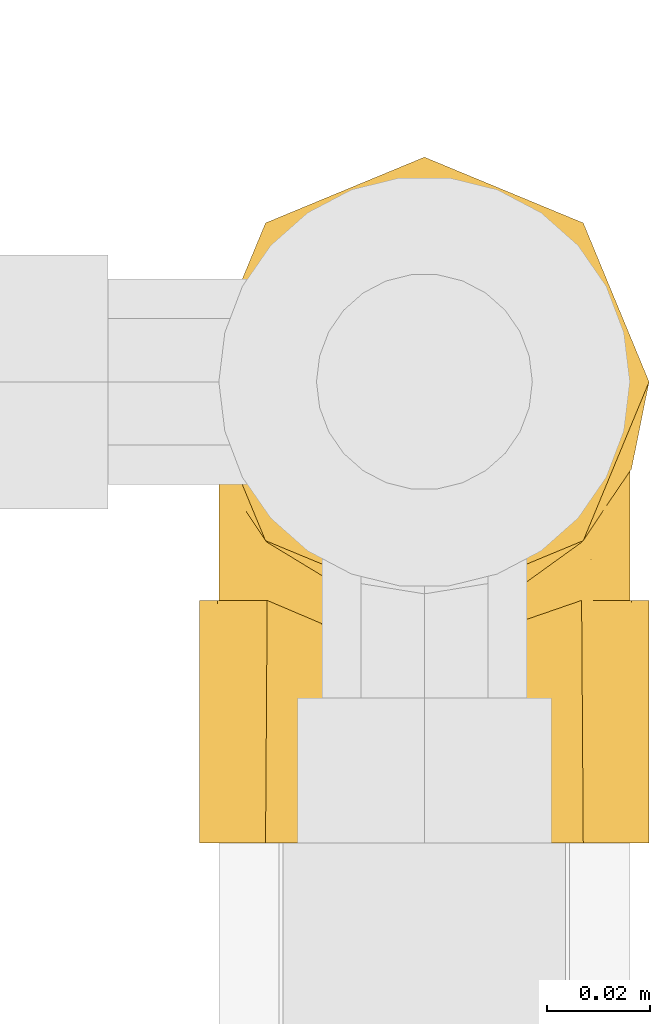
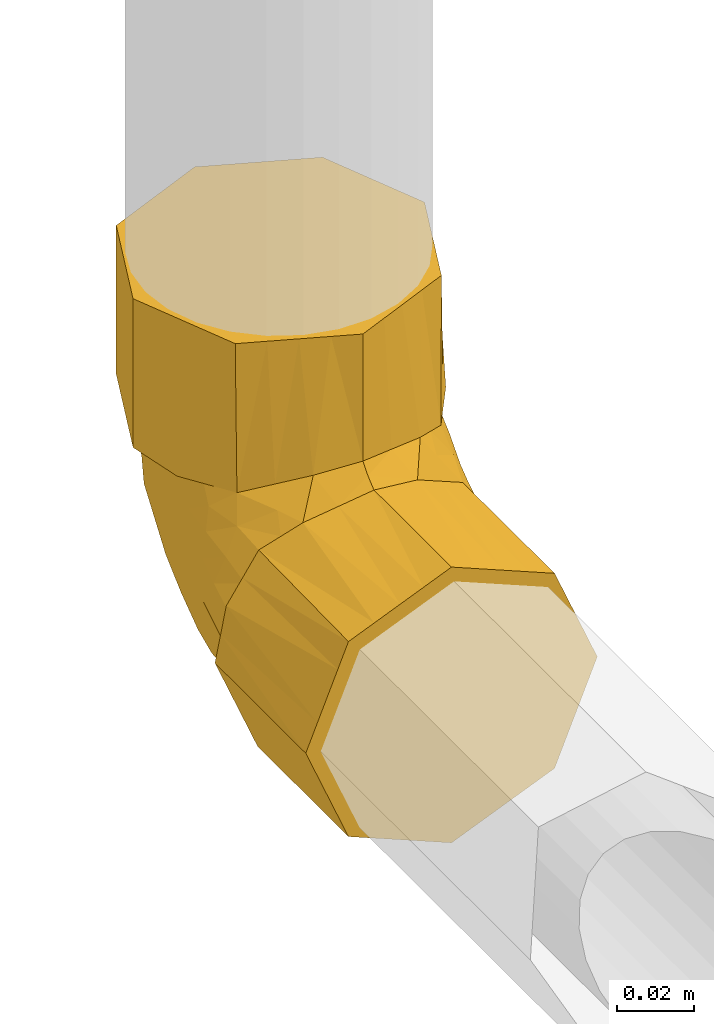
# One storey, part 281 of 652: 1 covering.
"""IFC2X3 building model written with IfcOpenShell, lengths in millimetres."""

from ifc_helpers import new_model, entity, si_unit, converted_unit, direction, frame, origin, place, context, subcontext, project, spatial, faceted_brep, material, type_object, element, save


model = new_model("IFC2X3")

# Units and contexts
model_context = context("Model", 3, precision=0.01, world=frame((0.0, 0.0, 308426.39999999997)), true_north=direction((6.123233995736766e-17, 1.0)))
plan_context = context("Plan", 3, precision=0.01, world=frame((0.0, 0.0, 308426.39999999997)), true_north=direction((6.123233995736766e-17, 1.0)))
body_context = subcontext(model_context, "Body", "Model", "MODEL_VIEW")
ifc_project = project(units=[si_unit("LENGTHUNIT", "METRE", prefix="MILLI"), si_unit("AREAUNIT", "SQUARE_METRE"), si_unit("VOLUMEUNIT", "CUBIC_METRE"), converted_unit("PLANEANGLEUNIT", "DEGREE", entity("IfcPlaneAngleMeasure", 0.017453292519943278), si_unit("PLANEANGLEUNIT", "RADIAN"), dimensions=[0, 0, 0, 0, 0, 0, 0])], contexts=[model_context, plan_context])

# Site, building, storey
site_placement = place(None, origin())
site = spatial("IfcSite", under=ifc_project, at=site_placement, Name="Default", CompositionType="ELEMENT")
building_placement = place(site_placement, origin())
building = spatial("IfcBuilding", under=site, at=building_placement, CompositionType="ELEMENT")
storey_placement = place(building_placement, frame((0.0, 0.0, 1730.6999999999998)))
storey = spatial("IfcBuildingStorey", under=building, at=storey_placement, Name="EG_Produktion_FFB", CompositionType="ELEMENT", Elevation=1730.6999999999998)

# Covering
ifc_material = material(Name="Dämmung - Armaflex-Schlauch")
covering_type = type_object("IfcCoveringType", Name="Rohrdämmung außen:Armaflex-Schlauch", PredefinedType="INSULATION")
covering_placement = place(storey_placement, frame((79576.77747546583, 84759.14066098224, 4954.684727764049)))
element("IfcCovering", 1, at=covering_placement, inside=storey, type_object=covering_type, material=ifc_material, Name="Rohrdämmung außen:Armaflex-Schlauch", ObjectType="Rohrdämmung außen:Armaflex-Schlauch", PredefinedType="INSULATION", context=body_context, shape_type="Brep", body=[
    faceted_brep([(89.03527223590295, 89.7200000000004, 87.85527223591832), (87.32560259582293, 81.24510847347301, 87.85527223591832), (85.61593295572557, 72.7702169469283, 87.85527223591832), (80.76173096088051, 65.62819273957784, 87.85527223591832), (75.90752896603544, 58.48616853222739, 87.85527223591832), (80.04887855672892, 67.59976223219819, 87.8552722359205), (84.19022814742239, 76.71335593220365, 87.85527223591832), (85.31527223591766, 86.71350835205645, 87.85527223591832), (81.77473258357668, 94.40209709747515, 87.8552722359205), (78.23419293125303, 102.09068584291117, 87.85527223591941), (74.38937834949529, 110.44003397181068, 87.85527223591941), (70.54456376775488, 118.78938210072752, 87.85527223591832), (57.929918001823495, 123.35795944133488, 87.85527223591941), (45.315272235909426, 127.92653678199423, 87.85527223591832), (37.43329692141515, 123.99884456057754, 87.85527223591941), (29.551321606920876, 120.07115233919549, 87.85527223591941), (21.669346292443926, 116.14346011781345, 87.85527223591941), (13.78737097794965, 112.21576789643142, 87.85527223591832), (10.718682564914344, 102.97856578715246, 87.85527223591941), (8.016977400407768, 94.8460370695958, 87.8552722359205), (5.315272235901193, 86.71350835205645, 87.85527223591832), (6.153990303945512, 82.95558245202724, 87.85527223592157), (6.992708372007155, 79.19765655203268, 87.85527223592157), (8.33413587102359, 73.18731131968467, 87.85527223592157), (9.675563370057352, 67.17696608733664, 87.85527223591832), (14.723015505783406, 58.48616853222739, 87.85527223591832), (9.868813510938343, 65.62819273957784, 87.85527223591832), (5.014611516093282, 72.7702169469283, 87.85527223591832), (3.304941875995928, 81.24510847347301, 87.85527223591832), (1.5952722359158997, 89.7200000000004, 87.85527223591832), (5.076533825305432, 98.12450894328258, 87.85527223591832), (7.997917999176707, 105.17735423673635, 87.85527223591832), (11.19924088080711, 112.90603135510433, 87.85527223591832), (14.400563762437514, 120.63470847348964, 87.85527223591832), (22.129240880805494, 123.8360313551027, 87.85527223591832), (29.85791799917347, 127.03735423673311, 87.85527223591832), (36.91076458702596, 129.95873894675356, 87.85527223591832), (45.315272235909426, 133.44000000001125, 87.85527223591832), (53.71978107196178, 129.9587384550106, 87.85527223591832), (60.772626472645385, 127.03735423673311, 87.85527223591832), (68.50130359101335, 123.8360313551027, 87.85527223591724), (76.22998070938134, 120.63470847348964, 87.85527223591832), (79.43130359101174, 112.90603135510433, 87.85527223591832), (82.63262647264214, 105.17735423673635, 87.85527223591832), (85.5540112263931, 98.12450754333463, 87.85527223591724), (14.400563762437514, 58.805291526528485, 135.0352722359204), (22.129240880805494, 55.60396864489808, 135.0352722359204), (29.85791799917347, 52.40264576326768, 135.0352722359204), (37.58659511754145, 49.201322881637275, 135.0352722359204), (45.315272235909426, 46.0, 135.0352722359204), (53.719779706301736, 49.481260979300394, 135.0352722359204), (60.772626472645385, 52.40264576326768, 135.0352722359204), (68.50130359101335, 55.60396864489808, 135.0352722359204), (76.22998070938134, 58.805291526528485, 135.0352722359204), (79.43130359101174, 66.53396864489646, 135.0352722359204), (82.63262647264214, 74.26264576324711, 135.0352722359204), (85.83394935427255, 81.99132288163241, 135.0352722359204), (89.03527223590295, 89.7200000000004, 135.0352722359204), (85.83394935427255, 97.44867711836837, 135.0352722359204), (82.63262647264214, 105.17735423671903, 135.0352722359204), (79.43130359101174, 112.90603135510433, 135.0352722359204), (76.22998070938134, 120.63470847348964, 135.0352722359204), (68.50130359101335, 123.8360313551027, 135.0352722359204), (60.772626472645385, 127.03735423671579, 135.0352722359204), (53.0439493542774, 130.2386771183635, 135.0352722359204), (45.315272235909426, 133.44000000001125, 135.0352722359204), (37.58659511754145, 130.2386771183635, 135.0352722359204), (29.85791799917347, 127.03735423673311, 135.0352722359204), (22.129240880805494, 123.8360313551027, 135.0352722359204), (14.400563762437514, 120.63470847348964, 135.0352722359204), (11.479179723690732, 113.58186350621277, 135.0352722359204), (8.557795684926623, 106.52901853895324, 135.0352722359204), (5.076533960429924, 98.12450926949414, 135.0352722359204), (1.5952722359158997, 89.7200000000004, 135.0352722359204), (5.076533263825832, 81.31549241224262, 135.0352722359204), (7.997917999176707, 74.26264576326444, 135.0352722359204), (11.19924088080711, 66.53396864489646, 135.0352722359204), (45.315272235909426, 46.0, 94.75489207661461), (31.66279583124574, 48.1862993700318, 93.70357391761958), (23.19290566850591, 53.33623395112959, 90.77942307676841), (55.29456727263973, 48.410751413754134, 93.56571370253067), (65.27386230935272, 50.821502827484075, 92.37653532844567), (70.59069563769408, 54.6538356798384, 90.11590378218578), (89.03527223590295, 47.17999999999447, 45.31527223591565), (85.554010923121, 47.17999999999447, 36.91076396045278), (82.63262647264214, 47.17999999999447, 29.857917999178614), (79.43130359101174, 47.17999999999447, 22.129240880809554), (76.22998070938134, 47.17999999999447, 14.40056376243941), (68.50130359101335, 47.17999999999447, 11.199240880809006), (60.772626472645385, 47.17999999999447, 7.997917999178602), (53.71977974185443, 47.17999999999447, 5.076533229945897), (45.315272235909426, 47.17999999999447, 1.595272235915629), (36.91076358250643, 47.17999999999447, 5.076533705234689), (29.85791799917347, 47.17999999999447, 7.9979179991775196), (22.129240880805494, 47.17999999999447, 11.199240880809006), (14.400563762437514, 47.17999999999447, 14.40056376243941), (11.19924088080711, 47.17999999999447, 22.12924088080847), (7.997917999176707, 47.17999999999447, 29.85791799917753), (5.076533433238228, 47.17999999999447, 36.91076423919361), (1.5952722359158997, 47.17999999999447, 45.31527223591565), (3.3049417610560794, 47.17999999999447, 53.79016348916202), (5.014611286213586, 47.17999999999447, 62.26505474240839), (9.868813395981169, 47.17999999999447, 69.40707922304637), (14.72301550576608, 47.17999999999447, 76.54910370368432), (10.581665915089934, 47.17999999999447, 67.4355100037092), (6.440316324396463, 47.17999999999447, 58.32191630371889), (5.315272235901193, 47.17999999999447, 48.32176388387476), (8.85581183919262, 47.17999999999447, 40.63317524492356), (12.396351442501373, 47.17999999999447, 32.944586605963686), (16.241166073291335, 47.17999999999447, 24.595238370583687), (20.085980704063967, 47.17999999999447, 16.245890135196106), (32.70062646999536, 47.17999999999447, 11.677312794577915), (45.315272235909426, 47.17999999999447, 7.108735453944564), (52.966063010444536, 47.17999999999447, 10.921225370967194), (60.61685378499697, 47.17999999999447, 14.733715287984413), (68.73001363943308, 47.17999999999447, 18.776609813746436), (76.8431734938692, 47.17999999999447, 22.819504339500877), (79.91186200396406, 47.17999999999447, 32.05670674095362), (82.61356711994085, 47.17999999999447, 40.189235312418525), (85.31527223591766, 47.17999999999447, 48.321763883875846), (84.47655407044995, 47.17999999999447, 52.07969022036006), (83.63783590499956, 47.17999999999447, 55.83761655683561), (82.29640850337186, 47.17999999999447, 61.847961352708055), (80.9549811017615, 47.17999999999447, 67.85830614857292), (75.90752896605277, 47.17999999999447, 76.54910370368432), (80.76173107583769, 47.17999999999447, 69.40707922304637), (85.61593318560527, 47.17999999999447, 62.26505474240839), (87.32560271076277, 47.17999999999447, 53.79016348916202), (4.796595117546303, 0.0, 37.586595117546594), (7.997917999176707, 0.0, 29.85791799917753), (11.19924088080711, 0.0, 22.12924088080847), (14.400563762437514, 0.0, 14.40056376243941), (21.45340882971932, 0.0, 11.47917968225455), (28.506253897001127, 0.0, 8.55779560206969), (36.910763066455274, 0.0, 5.0765339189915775), (45.315272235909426, 0.0, 1.595272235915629), (53.0439493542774, 0.0, 4.796595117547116), (60.772626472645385, 0.0, 7.997917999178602), (68.50130359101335, 0.0, 11.19924088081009), (76.22998070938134, 0.0, 14.40056376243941), (79.15136521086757, 0.0, 21.453409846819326), (82.0727497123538, 0.0, 28.50625593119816), (85.55401097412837, 0.0, 36.910764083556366), (89.03527223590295, 0.0, 45.31527223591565), (85.55401125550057, 0.0, 53.719779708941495), (82.63262647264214, 0.0, 60.772626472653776), (79.43130359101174, 0.0, 68.50130359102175), (76.22998070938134, 0.0, 76.2299807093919), (68.50130359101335, 0.0, 79.4313035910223), (60.772626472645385, 0.0, 82.63262647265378), (53.0439493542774, 0.0, 85.83394935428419), (45.315272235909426, 0.0, 89.03527223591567), (36.910764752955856, 0.0, 85.5540112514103), (29.85791799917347, 0.0, 82.63262647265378), (22.129240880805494, 0.0, 79.4313035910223), (14.400563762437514, 0.0, 76.2299807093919), (11.19924088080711, 0.0, 68.50130359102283), (7.997917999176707, 0.0, 60.772626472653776), (5.076533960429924, 0.0, 53.71978150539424), (1.5952722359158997, 0.0, 45.31527223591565), (35.33597719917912, 41.46955853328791, 86.62452082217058), (45.315272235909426, 40.280380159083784, 89.03527223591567), (25.356682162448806, 42.65873690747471, 84.21376940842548), (20.039848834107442, 44.91936845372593, 80.3814365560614), (58.96774864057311, 41.33169831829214, 86.84897286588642), (67.43763880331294, 44.25584915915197, 81.69903828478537), (12.764668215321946, 102.49262153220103, 66.03128520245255), (7.785872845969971, 83.60598863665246, 55.76616911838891), (8.104982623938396, 95.30418911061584, 70.75443349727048), (6.007022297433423, 71.60753704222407, 53.30419653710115), (5.315272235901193, 59.437675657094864, 55.8308424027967), (5.315272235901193, 61.22785128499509, 56.92750784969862), (5.315272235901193, 66.4616012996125, 60.133714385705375), (5.315272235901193, 71.69535131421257, 63.33992092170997), (5.864313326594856, 83.66921529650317, 67.29968041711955), (24.578220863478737, 117.4042755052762, 72.1261319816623), (18.409126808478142, 111.85790663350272, 70.74159626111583), (18.91974193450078, 70.85529611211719, 25.809725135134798), (12.401297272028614, 67.52213053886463, 32.33216175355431), (27.82104943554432, 83.79232970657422, 26.756767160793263), (25.71861098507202, 64.52790148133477, 17.558758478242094), (14.905828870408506, 90.43203439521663, 45.32915426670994), (17.6070351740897, 102.66187322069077, 55.644074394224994), (22.306000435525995, 94.87008754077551, 40.24215163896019), (10.642924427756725, 80.53327920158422, 44.41295780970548), (45.315272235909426, 118.67320029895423, 72.64450076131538), (35.03711460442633, 119.31424049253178, 65.21420834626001), (35.87780622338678, 89.03482051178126, 26.986586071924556), (35.33321956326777, 72.15163275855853, 16.736109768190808), (7.9767390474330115, 66.97723217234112, 41.63565492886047), (23.669456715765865, 109.32130855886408, 57.108109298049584), (35.14732952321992, 103.3150875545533, 40.522880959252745), (28.005805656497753, 103.30286827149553, 44.545772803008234), (45.315272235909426, 90.9131908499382, 27.012186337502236), (45.315272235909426, 65.2108364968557, 15.31476528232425), (45.315272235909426, 109.41986381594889, 57.43372928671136), (45.315272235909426, 100.16652733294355, 42.22295781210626), (5.315272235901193, 54.20392564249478, 52.624635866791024), (5.315272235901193, 74.90155815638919, 68.5736714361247), (5.315272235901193, 78.10776499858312, 73.80742195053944), (5.315272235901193, 82.41063667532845, 80.83134709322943), (5.315272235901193, 84.56207251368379, 84.34330966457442), (6.515026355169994, 56.258861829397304, 63.305798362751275), (6.52360473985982, 62.03791845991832, 67.67516595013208), (6.838807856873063, 70.10566319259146, 78.51514507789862), (5.95142486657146, 68.23490048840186, 69.99439310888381), (8.011933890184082, 62.99433546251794, 75.12919781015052), (9.284155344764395, 54.79248262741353, 71.60390920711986), (45.315272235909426, 43.41108006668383, 91.62419216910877), (21.350681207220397, 48.835072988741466, 85.77416460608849), (12.878665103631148, 55.14442201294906, 79.89085011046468), (9.509001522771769, 64.1368394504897, 82.00241116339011), (82.61861054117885, 59.90607457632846, 72.04093705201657), (81.34638912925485, 63.431363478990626, 80.24279019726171), (77.75188031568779, 55.144422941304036, 79.8908491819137), (85.31527223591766, 78.10776499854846, 73.80742195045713), (85.31527223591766, 79.20442983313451, 75.59759657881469), (85.31527223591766, 82.41063667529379, 80.83134709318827), (69.27986274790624, 49.26110760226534, 86.20019977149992), (81.1215425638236, 53.03286108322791, 70.89843373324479), (83.79173653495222, 56.52012643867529, 64.92960889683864), (84.10693976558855, 67.36010606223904, 72.99735331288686), (84.67911968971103, 65.04087848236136, 66.80037051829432), (85.31527223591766, 71.69535131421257, 63.33992092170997), (84.11551813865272, 71.7294735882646, 78.7764098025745), (85.31527223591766, 74.90155815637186, 68.57367143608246), (85.31527223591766, 50.69196282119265, 50.47319987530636), (85.31527223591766, 54.20392564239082, 52.6246358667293), (85.31527223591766, 61.22785128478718, 56.92750784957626), (85.31527223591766, 66.46160129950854, 60.13371438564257), (71.91409724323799, 64.51661720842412, 22.972542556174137), (65.71218477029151, 62.89172374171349, 17.405455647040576), (66.83340013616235, 77.88843229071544, 25.594293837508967), (58.71549396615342, 93.66203085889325, 32.30040737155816), (67.03603928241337, 94.88135093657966, 39.028871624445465), (54.35919340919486, 119.67254054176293, 65.25953143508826), (56.778590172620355, 72.87900692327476, 17.555433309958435), (84.62352215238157, 81.73107619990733, 63.427735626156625), (82.65281657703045, 93.40104666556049, 68.05540963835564), (82.84467155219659, 79.26910431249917, 51.42928442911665), (79.98754021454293, 90.61961422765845, 54.498556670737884), (82.52556187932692, 64.28083963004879, 39.73108369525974), (84.76623113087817, 67.73559194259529, 51.366056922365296), (75.72471529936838, 89.70612046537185, 44.603239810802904), (77.86587628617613, 69.0039884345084, 32.54265152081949), (72.96044433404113, 79.38016234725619, 32.29248434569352), (71.96834918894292, 108.77974526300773, 63.82623404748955), (78.28376597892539, 102.9680398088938, 68.1911667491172), (62.671083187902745, 108.54428370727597, 51.50952341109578), (63.12603991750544, 118.44866051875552, 70.38974905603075), (53.60445762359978, 107.59283931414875, 44.981281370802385)], [[[0, 1, 2, 3, 4, 5, 6, 7, 8, 9, 10, 11, 12, 13, 14, 15, 16, 17, 18, 19, 20, 21, 22, 23, 24, 25, 26, 27, 28, 29, 30, 31, 32, 33, 34, 35, 36, 37, 38, 39, 40, 41, 42, 43, 44]], [[45, 46, 47, 48, 49, 50, 51, 52, 53, 54, 55, 56, 57, 58, 59, 60, 61, 62, 63, 64, 65, 66, 67, 68, 69, 70, 71, 72, 73, 74, 75, 76]], [[74, 27, 76, 75]], [[77, 48, 78]], [[78, 47, 79]], [[48, 77, 49]], [[25, 79, 46]], [[27, 74, 28]], [[45, 26, 25]], [[48, 47, 78]], [[73, 28, 74]], [[73, 29, 28]], [[76, 27, 26]], [[26, 45, 76]], [[25, 46, 45]], [[79, 47, 46]], [[30, 29, 73, 72, 71, 70, 69, 33, 32, 31]], [[33, 69, 68, 67, 66, 65, 37, 36, 35, 34]], [[0, 44, 43, 42, 41, 61, 60, 59, 58, 57]], [[63, 62, 61, 41, 40, 39, 38, 37, 65, 64]], [[3, 54, 53]], [[57, 56, 0]], [[80, 51, 50]], [[55, 2, 1]], [[55, 54, 2]], [[52, 81, 82, 4]], [[50, 77, 80]], [[2, 54, 3]], [[1, 56, 55]], [[53, 4, 3]], [[51, 80, 81]], [[0, 56, 1]], [[50, 49, 77]], [[52, 4, 53]], [[52, 51, 81]], [[83, 84, 85, 86, 87, 88, 89, 90, 91, 92, 93, 94, 95, 96, 97, 98, 99, 100, 101, 102, 103, 104, 105, 106, 107, 108, 109, 110, 111, 112, 113, 114, 115, 116, 117, 118, 119, 120, 121, 122, 123, 124, 125, 126, 127]], [[128, 129, 130, 131, 132, 133, 134, 135, 136, 137, 138, 139, 140, 141, 142, 143, 144, 145, 146, 147, 148, 149, 150, 151, 152, 153, 154, 155, 156, 157, 158, 159]], [[133, 132, 131, 95, 94, 93, 92, 91, 135, 134]], [[95, 131, 130, 129, 128, 159, 99, 98, 97, 96]], [[102, 156, 155]], [[160, 153, 152]], [[99, 159, 100]], [[157, 156, 101, 158]], [[158, 101, 100]], [[152, 161, 160]], [[101, 156, 102]], [[154, 162, 163, 103]], [[155, 103, 102]], [[153, 160, 162]], [[159, 158, 100]], [[152, 151, 161]], [[154, 103, 155]], [[154, 153, 162]], [[125, 147, 146]], [[143, 83, 127]], [[161, 150, 164]], [[164, 149, 165]], [[150, 161, 151]], [[147, 125, 124]], [[126, 144, 127]], [[146, 145, 144, 126]], [[124, 148, 147]], [[143, 127, 144]], [[150, 149, 164]], [[146, 126, 125]], [[124, 165, 148]], [[165, 149, 148]], [[84, 83, 143, 142, 141, 140, 139, 87, 86, 85]], [[87, 139, 138, 137, 136, 135, 91, 90, 89, 88]], [[166, 167, 168]], [[169, 170, 171, 172, 173]], [[19, 168, 174]], [[17, 166, 18]], [[175, 176, 16]], [[177, 109, 178]], [[179, 180, 177]], [[181, 182, 183]], [[166, 181, 184]], [[14, 185, 186]], [[187, 188, 179]], [[184, 189, 167]], [[182, 181, 166]], [[176, 175, 190]], [[186, 191, 192]], [[166, 184, 167]], [[169, 174, 167]], [[188, 193, 194]], [[110, 109, 177]], [[190, 175, 186]], [[175, 16, 15]], [[186, 175, 15]], [[176, 190, 182]], [[186, 15, 14]], [[186, 195, 191]], [[196, 193, 187]], [[179, 183, 192]], [[184, 178, 189]], [[191, 195, 196]], [[178, 109, 108]], [[183, 177, 181]], [[178, 108, 189]], [[181, 177, 178]], [[189, 108, 107]], [[107, 106, 197, 170]], [[170, 169, 107]], [[169, 173, 174]], [[167, 189, 169]], [[107, 169, 189]], [[174, 173, 198, 199, 200, 201, 20]], [[174, 20, 19]], [[168, 19, 18]], [[166, 168, 18]], [[174, 168, 167]], [[111, 180, 188]], [[110, 177, 180]], [[194, 112, 111]], [[178, 184, 181]], [[188, 180, 179]], [[111, 110, 180]], [[179, 191, 187]], [[111, 188, 194]], [[187, 191, 196]], [[193, 188, 187]], [[192, 183, 190]], [[177, 183, 179]], [[166, 17, 176]], [[183, 182, 190]], [[166, 176, 182]], [[17, 16, 176]], [[185, 14, 13]], [[185, 195, 186]], [[186, 192, 190]], [[179, 192, 191]], [[172, 202, 203]], [[204, 205, 206]], [[23, 22, 21, 20, 201, 200, 199]], [[202, 104, 207]], [[208, 77, 78]], [[203, 173, 172]], [[203, 202, 207]], [[105, 104, 202]], [[163, 162, 209]], [[203, 205, 173]], [[197, 106, 105, 171, 170]], [[207, 206, 203]], [[210, 207, 103]], [[104, 103, 207]], [[160, 161, 208]], [[210, 163, 209]], [[206, 207, 210]], [[210, 25, 211]], [[204, 211, 24]], [[209, 25, 210]], [[78, 79, 25, 209]], [[105, 202, 171]], [[210, 103, 163]], [[78, 209, 162]], [[205, 203, 206]], [[172, 171, 202]], [[206, 211, 204]], [[204, 198, 205]], [[204, 24, 23]], [[210, 211, 206]], [[199, 204, 23]], [[198, 204, 199]], [[198, 173, 205]], [[25, 24, 211]], [[78, 160, 208]], [[78, 162, 160]], [[212, 213, 214]], [[6, 215, 216, 217, 7]], [[82, 218, 214]], [[219, 123, 220]], [[214, 213, 4]], [[5, 4, 213]], [[221, 222, 223]], [[208, 80, 77]], [[218, 124, 214]], [[161, 164, 208]], [[214, 124, 219]], [[6, 5, 224]], [[82, 81, 218]], [[224, 5, 213]], [[225, 224, 221]], [[220, 222, 212]], [[122, 121, 120, 119, 226, 227, 228]], [[164, 165, 124, 218]], [[221, 223, 225]], [[213, 212, 221]], [[221, 224, 213]], [[6, 224, 215]], [[214, 4, 82]], [[164, 218, 81]], [[222, 221, 212]], [[225, 215, 224]], [[212, 219, 220]], [[220, 229, 222]], [[220, 123, 122]], [[214, 219, 212]], [[228, 220, 122]], [[229, 220, 228]], [[229, 223, 222]], [[124, 123, 219]], [[164, 80, 208]], [[164, 81, 80]], [[230, 115, 231]], [[232, 233, 234]], [[12, 235, 13]], [[113, 194, 236]], [[237, 216, 215, 225, 223]], [[236, 232, 231]], [[238, 239, 240]], [[230, 231, 232]], [[118, 241, 242]], [[243, 244, 245]], [[246, 10, 247]], [[116, 244, 117]], [[244, 243, 240]], [[244, 239, 241]], [[248, 249, 246]], [[247, 238, 240]], [[237, 242, 239]], [[232, 236, 233]], [[250, 193, 196, 195]], [[113, 236, 114]], [[233, 248, 234]], [[113, 112, 194]], [[193, 236, 194]], [[236, 193, 233]], [[233, 250, 248]], [[231, 115, 114]], [[248, 250, 235]], [[248, 235, 249]], [[235, 250, 195]], [[235, 195, 185, 13]], [[235, 12, 249]], [[12, 11, 249]], [[246, 249, 11]], [[10, 9, 247]], [[234, 246, 243]], [[246, 234, 248]], [[245, 234, 243]], [[246, 11, 10]], [[247, 9, 238]], [[243, 246, 247]], [[238, 9, 8]], [[8, 7, 217, 216]], [[216, 237, 8]], [[237, 223, 242]], [[239, 238, 237]], [[8, 237, 238]], [[242, 223, 229, 228, 227, 226, 119]], [[242, 119, 118]], [[241, 118, 117]], [[244, 241, 117]], [[242, 241, 239]], [[244, 240, 239]], [[247, 240, 243]], [[193, 250, 233]], [[236, 231, 114]], [[230, 232, 245]], [[244, 116, 230]], [[234, 245, 232]], [[244, 230, 245]], [[116, 115, 230]]]),
])

save(model, "model.ifc")
